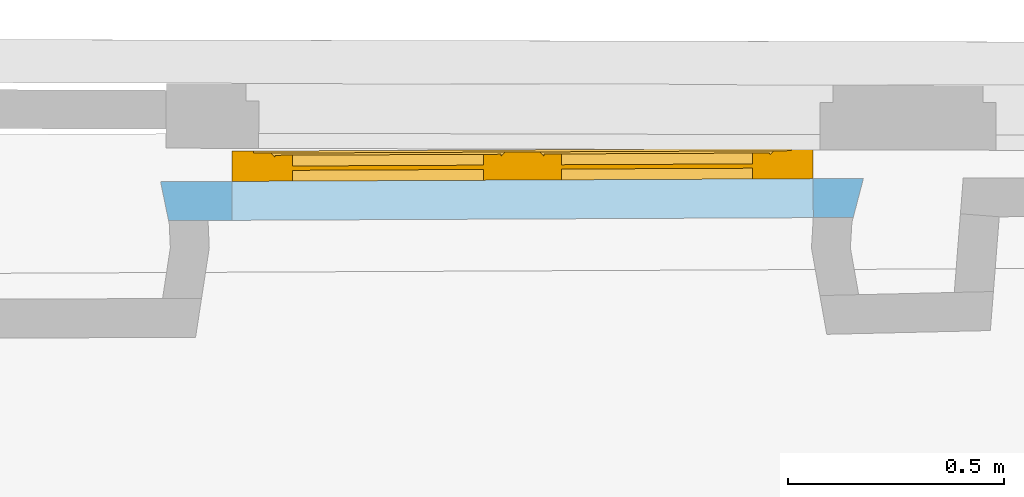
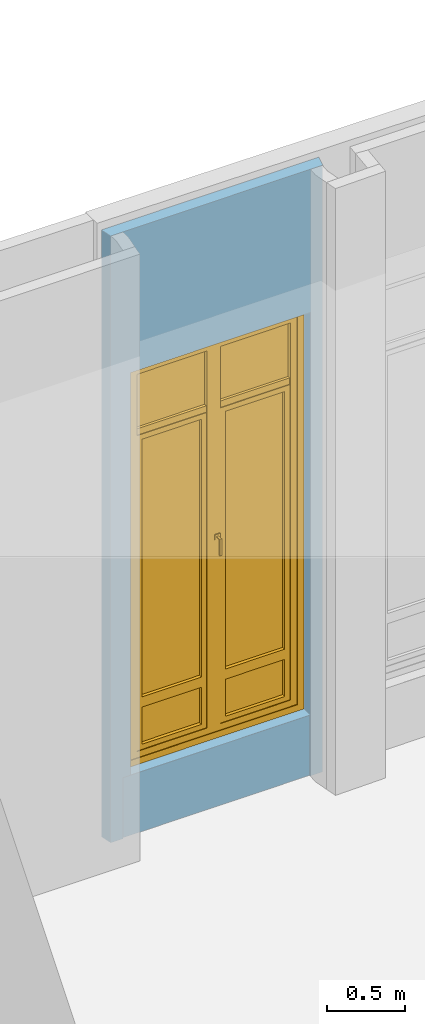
# One storey, part 70 of 97: 1 window, 2 openings, plus 1 element that does not belong to this part.
"""IFC2X3 building model written with IfcOpenShell, lengths in centimetres."""

from ifc_helpers import new_model, entity, si_unit, converted_unit, direction, frame, origin, origin_with_axes, place, context, subcontext, project, spatial, polyline, outline, extrude, faceted_brep, shape, source, transform, mapped, material, material_list, layer, layer_set, layer_usage, type_object, element, fill, save


model = new_model("IFC2X3")

# Units and contexts
model_context = context("Model", 3, precision=0.0001, world=origin(), true_north=direction((0.225632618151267, 0.974212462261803, 0.0)))
body_context = subcontext(model_context, "Body", "Model", "MODEL_VIEW")
footprint_context = subcontext(model_context, "FootPrint", "Model", "MODEL_VIEW")
profile_context = subcontext(model_context, "Profile", "Model", "MODEL_VIEW")
ifc_project = project(units=[si_unit("LENGTHUNIT", "METRE", prefix="CENTI"), si_unit("AREAUNIT", "SQUARE_METRE", prefix="CENTI"), si_unit("VOLUMEUNIT", "CUBIC_METRE", prefix="CENTI"), converted_unit("PLANEANGLEUNIT", "DEGREE", entity("IfcRatioMeasure", 0.0174532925), si_unit("PLANEANGLEUNIT", "RADIAN"), dimensions=[0, 0, 0, 0, 0, 0, 0])], contexts=[model_context])

# Site, building, storey
site_placement = place(None, origin_with_axes())
site = spatial("IfcSite", under=ifc_project, at=site_placement, Name="Default Site", CompositionType="ELEMENT")
building_placement = place(site_placement, origin_with_axes())
building = spatial("IfcBuilding", under=site, at=building_placement, Name="Default Building", CompositionType="ELEMENT")
storey_placement = place(building_placement, origin_with_axes())
storey = spatial("IfcBuildingStorey", under=building, at=storey_placement, Name="Rez-de-chaussée", CompositionType="ELEMENT", Elevation=0.0)

# Wall, openings, window
ifc_material_1 = material(Name="<aucun>")
ifc_layer = layer(ifc_material_1, 9.0)
ifc_layer_set = layer_set([ifc_layer], Name="default")
ifc_layer_usage = layer_usage(ifc_layer_set, "AXIS2", "POSITIVE", -4.5)
wall_type = type_object("IfcWallType", Name="default 90", PredefinedType="NOTDEFINED", material=ifc_layer_set)
wall_placement = place(storey_placement, frame((532.490372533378, 732.679871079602, 0.0128503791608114), z_axis=(0.0, 0.0, 1.0), x_axis=(0.999989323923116, 0.00462082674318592, 0.0)))
wall = element("IfcWallStandardCase", 1, at=wall_placement, inside=storey, type_object=wall_type, material=ifc_layer_usage, Name="Enveloppe 671504", context=body_context, shape_type="SweptSolid", body=[
    extrude(outline(polyline([(-8.07319008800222, 4.49999999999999), (-6.26623625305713, -4.49999999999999), (152.067058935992, -4.50000000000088), (154.474498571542, 4.49999999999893), (-8.07319008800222, 4.49999999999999)])), origin_with_axes(), (0.0, 0.0, 1.0), 477.795358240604),
])
opening_1_placement = place(wall_placement, frame((2.8564647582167, 0.0, -1.27677382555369e-13), z_axis=(0.0, 0.0, 1.0), x_axis=(-1.0, 6.84001466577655e-15, 0.0)))
cartesian_point_1 = entity("IfcCartesianPoint", [-8.88178419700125e-14, -8.88178419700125e-14, 48.0])
cartesian_point_2 = entity("IfcCartesianPoint", [-139.98012698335, -4.50000000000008])
element("IfcOpeningElement", 2, at=opening_1_placement, cuts=wall, Name="Baie 23852", ObjectType="Recess", shapes=[
    shape(body_context, "Body", "Brep", [faceted_brep([(2.16979396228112e-05, 24.4999819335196, -4.62480059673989e-10), (-139.980119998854, 24.4999819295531, -4.62480059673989e-10), (-139.980119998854, 24.4999819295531, 47.9999993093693), (2.16979396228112e-05, 24.4999819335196, 47.9999993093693), (2.16985346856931e-05, 3.49999234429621, 47.9999993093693), (2.16985346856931e-05, 3.49999234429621, -4.62480059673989e-10), (2.07461233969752e-05, 3.49999234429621, -4.62480059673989e-10), (-139.98012095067, 3.49998672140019, -4.62480059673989e-10), (-139.980119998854, 24.4999763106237, -4.62480059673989e-10), (-139.980119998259, 3.49998672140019, -4.62480059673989e-10), (-139.980119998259, 3.49998672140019, 47.9999993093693), (-139.980119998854, 24.4999763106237, 47.9999993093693), (-139.98012095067, 3.49998672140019, 47.9999993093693), (2.07461233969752e-05, 3.49999234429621, 47.9999993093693), (2.07461233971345e-05, 3.49998672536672, -4.62480059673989e-10), (2.07461233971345e-05, 3.49998672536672, 47.9999993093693)], [[[0, 1, 2, 3]], [[3, 4, 5, 0]], [[0, 6, 7, 8]], [[8, 9, 10, 11]], [[11, 12, 13, 3]], [[12, 7, 14, 15]]])]),
    shape(profile_context, "Profile", "GeometricCurveSet", [entity("IfcGeometricCurveSet", [entity("IfcPolyline", [cartesian_point_1, entity("IfcCartesianPoint", [-8.88178419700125e-14, -8.88178419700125e-14, 0.0]), entity("IfcCartesianPoint", [-139.98012698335, -8.88178419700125e-14, 0.0]), entity("IfcCartesianPoint", [-139.98012698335, -8.88178419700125e-14, 48.0]), cartesian_point_1])])]),
    shape(footprint_context, "FootPrint", "GeometricCurveSet", [entity("IfcGeometricCurveSet", [entity("IfcPolyline", [cartesian_point_2, entity("IfcCartesianPoint", [-8.88178419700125e-14, -4.50000000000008]), entity("IfcCartesianPoint", [-8.88178419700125e-14, 4.49999999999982]), entity("IfcCartesianPoint", [-139.98012698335, 4.49999999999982]), cartesian_point_2])])]),
])
opening_2_placement = place(wall_placement, frame((8.44156843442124, 1.13686837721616e-13, 48.1016933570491), z_axis=(0.0, 0.0, 1.0), x_axis=(-1.0, 6.84001466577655e-15, 0.0)))
cartesian_point_3 = entity("IfcCartesianPoint", [-8.88178419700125e-14, 0.0, 317.0])
cartesian_point_4 = entity("IfcCartesianPoint", [-134.395023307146, -4.49999999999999])
opening_2 = element("IfcOpeningElement", 3, at=opening_2_placement, cuts=wall, Name="4294966449_11", ObjectType="Opening", shapes=[
    shape(body_context, "Body", "SweptSolid", [extrude(outline(polyline([(0.0, 317.0), (0.0, 0.0), (134.395023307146, 0.0), (134.395023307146, 317.0), (0.0, 317.0)])), frame((0.0, -14.5, 0.0), z_axis=(0.0, 1.0, 0.0), x_axis=(-1.0, 0.0, 0.0)), (0.0, 0.0, 1.0), 29.0)]),
    shape(profile_context, "Profile", "GeometricCurveSet", [entity("IfcGeometricCurveSet", [entity("IfcPolyline", [cartesian_point_3, entity("IfcCartesianPoint", [-8.88178419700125e-14, 0.0, 0.0]), entity("IfcCartesianPoint", [-134.395023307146, 0.0, 0.0]), entity("IfcCartesianPoint", [-134.395023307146, 0.0, 317.0]), cartesian_point_3])])]),
    shape(footprint_context, "FootPrint", "GeometricCurveSet", [entity("IfcGeometricCurveSet", [entity("IfcPolyline", [cartesian_point_4, entity("IfcCartesianPoint", [0.0, -4.4999999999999]), entity("IfcCartesianPoint", [-8.88178419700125e-14, 4.49999999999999]), entity("IfcCartesianPoint", [-134.395023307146, 4.4999999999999]), cartesian_point_4])])]),
])
ifc_material_2 = material(Name="Transparent")
ifc_material_3 = material(Name="Blanc trafic")
ifc_material_4 = material(Name="Aluminium satiné")
ifc_material_5 = material(Name="Blanc trafic")
ifc_material_list = material_list([ifc_material_2, ifc_material_3, ifc_material_4, ifc_material_5])
window_style = type_object("IfcWindowStyle", Name="FN[R] 2VB[2V] MM", ConstructionType="NOTDEFINED", OperationType="NOTDEFINED", ParameterTakesPrecedence=False, Sizeable=False, material=ifc_material_list)
shared_shape = source(origin_with_axes(), body_context, "Body", "Brep", [
    faceted_brep([(-62.1975123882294, 311.999988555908, -3.99999991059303), (-62.1975123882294, 311.999988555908, 3.99999991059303), (-62.1975123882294, 5.00000007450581, 3.99999991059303), (-62.1975123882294, 5.00000007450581, -3.99999991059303), (-67.1975135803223, 317.000007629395, 3.99999991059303), (-67.1975135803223, 1.11022302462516e-14, 3.99999991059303), (-67.1975135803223, 317.000007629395, -3.99999991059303), (-67.1975135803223, 1.11022302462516e-14, -3.99999991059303), (62.1975123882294, 5.00000007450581, 3.99999991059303), (62.1975123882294, 5.00000007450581, -3.99999991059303), (67.1975135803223, 1.11022302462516e-14, 3.99999991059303), (67.1975135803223, 1.11022302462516e-14, -3.99999991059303), (62.1975123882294, 311.999988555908, 3.99999991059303), (62.1975123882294, 311.999988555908, -3.99999991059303), (67.1975135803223, 317.000007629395, 3.99999991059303), (67.1975135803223, 317.000007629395, -3.99999991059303)], [[[0, 1, 2, 3]], [[1, 4, 5, 2]], [[4, 6, 7, 5]], [[6, 0, 3, 7]], [[3, 2, 8, 9]], [[2, 5, 10, 8]], [[5, 7, 11, 10]], [[7, 3, 9, 11]], [[9, 8, 12, 13]], [[8, 10, 14, 12]], [[10, 11, 15, 14]], [[11, 9, 13, 15]], [[13, 12, 1, 0]], [[12, 14, 4, 1]], [[14, 15, 6, 4]], [[15, 13, 0, 6]]]),
    faceted_brep([(-58.1975102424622, 307.999992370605, -3.50000001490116), (-57.1975107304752, 306.99999332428, -2.50000050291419), (-57.1975107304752, 10.0000001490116, -2.50000050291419), (-58.1975102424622, 9.00000035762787, -3.50000001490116), (-57.1975111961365, 306.99999332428, -2.5000000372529), (-57.1975111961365, 306.99999332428, 3.50000001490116), (-57.1975111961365, 10.0000001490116, 3.50000001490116), (-57.1975111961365, 10.0000001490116, -2.5000000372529), (-62.1975123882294, 311.999988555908, 3.50000001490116), (-62.1975123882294, 5.00000007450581, 3.50000001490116), (-62.1975123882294, 311.999988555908, -3.50000001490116), (-62.1975123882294, 5.00000007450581, -3.50000001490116), (-57.1975111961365, 10.0000002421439, -2.50000013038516), (-5.00000007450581, 10.0000002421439, -2.50000013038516), (-3.99999991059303, 9.00000035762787, -3.50000001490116), (-5.00000007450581, 10.0000001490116, 3.50000001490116), (-5.00000007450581, 10.0000001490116, -2.5000000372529), (1.22124532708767e-13, 5.00000007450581, 3.50000001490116), (1.22124532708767e-13, 5.00000007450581, -3.50000001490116), (-4.99999998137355, 10.0000001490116, -2.49999994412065), (-4.99999998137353, 306.99999332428, -2.49999994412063), (-3.99999991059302, 307.999992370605, -3.50000001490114), (-5.00000007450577, 306.99999332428, 3.50000001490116), (-5.00000007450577, 306.99999332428, -2.5000000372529), (1.4432899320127e-13, 311.999988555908, 3.50000001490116), (-5.00000007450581, 306.99999332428, 3.50000001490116), (1.44328991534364e-13, 311.999988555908, -3.50000001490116), (1.44328991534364e-13, 311.999988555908, 3.50000001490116), (-3.99999991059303, 307.999992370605, -3.50000001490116), (1.4432899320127e-13, 311.999988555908, -3.50000001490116), (-5.00000007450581, 306.999992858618, -2.5000005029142), (-57.1975111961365, 306.999992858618, -2.5000005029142), (-5.00000007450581, 306.99999332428, -2.5000000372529)], [[[0, 1, 2, 3]], [[4, 5, 6, 7]], [[5, 8, 9, 6]], [[8, 10, 11, 9]], [[10, 0, 3, 11]], [[3, 12, 13, 14]], [[7, 6, 15, 16]], [[6, 9, 17, 15]], [[9, 11, 18, 17]], [[11, 3, 14, 18]], [[14, 19, 20, 21]], [[16, 15, 22, 23]], [[15, 17, 24, 25]], [[17, 18, 26, 27]], [[18, 14, 28, 29]], [[28, 30, 31, 0]], [[32, 25, 5, 4]], [[25, 24, 8, 5]], [[24, 29, 10, 8]], [[29, 28, 0, 10]]]),
    faceted_brep([(-5.00000007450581, 306.99999332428, -0.499999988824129), (-5.00000007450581, 263.199996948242, -0.499999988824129), (-57.1975111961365, 263.199996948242, -0.499999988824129), (-57.1975111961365, 306.99999332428, -0.499999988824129), (-57.1975111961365, 306.99999332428, 0.499999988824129), (-57.1975111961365, 263.199996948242, 0.499999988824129), (-5.00000007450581, 263.199996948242, 0.499999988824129), (-5.00000007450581, 306.99999332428, 0.499999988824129)], [[[0, 1, 2, 3]], [[4, 5, 6, 7]], [[3, 2, 5, 4]], [[2, 1, 6, 5]], [[1, 0, 7, 6]], [[0, 3, 4, 7]]]),
    faceted_brep([(-5.00000007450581, 258.200001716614, 2.5000000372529), (-5.00000007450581, 258.200001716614, -2.5000000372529), (-5.00000007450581, 263.199996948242, -2.5000000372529), (-5.00000007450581, 263.199996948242, 2.5000000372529), (-57.1975111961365, 263.199996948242, 2.5000000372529), (-57.1975111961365, 263.199996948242, -2.5000000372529), (-57.1975111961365, 258.200001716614, -2.5000000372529), (-57.1975111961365, 258.200001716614, 2.5000000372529)], [[[0, 1, 2, 3]], [[4, 5, 6, 7]], [[3, 2, 5, 4]], [[2, 1, 6, 5]], [[1, 0, 7, 6]], [[0, 3, 4, 7]]]),
    faceted_brep([(-53.1975090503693, 254.200005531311, -2.99999993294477), (-53.1975090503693, 254.200005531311, 2.99999993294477), (-53.1975090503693, 51.230001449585, 2.99999993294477), (-53.1975090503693, 51.230001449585, -2.99999993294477), (-57.1975111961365, 258.200001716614, 2.99999993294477), (-57.1975111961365, 47.2299993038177, 2.99999993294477), (-57.1975111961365, 258.200001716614, -2.99999993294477), (-57.1975111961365, 47.2299993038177, -2.99999993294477), (-9.00000035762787, 51.230001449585, 2.99999993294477), (-9.00000035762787, 51.230001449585, -2.99999993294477), (-5.00000007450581, 47.2299993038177, 2.99999993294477), (-5.00000007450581, 47.2299993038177, -2.99999993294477), (-9.00000035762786, 254.200005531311, 2.99999993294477), (-9.00000035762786, 254.200005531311, -2.99999993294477), (-5.00000007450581, 258.200001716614, 2.99999993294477), (-9.00000035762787, 254.200005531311, 2.99999993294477), (-5.00000007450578, 258.200001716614, -2.99999993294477), (-5.00000007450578, 258.200001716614, 2.99999993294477), (-9.00000035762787, 254.200005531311, -2.99999993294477), (-5.00000007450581, 258.200001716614, -2.99999993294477)], [[[0, 1, 2, 3]], [[1, 4, 5, 2]], [[4, 6, 7, 5]], [[6, 0, 3, 7]], [[3, 2, 8, 9]], [[2, 5, 10, 8]], [[5, 7, 11, 10]], [[7, 3, 9, 11]], [[9, 8, 12, 13]], [[8, 10, 14, 15]], [[10, 11, 16, 17]], [[11, 9, 18, 19]], [[18, 15, 1, 0]], [[15, 14, 4, 1]], [[14, 19, 6, 4]], [[19, 18, 0, 6]]]),
    faceted_brep([(-9.00000035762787, 254.200005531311, -0.499999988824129), (-9.00000035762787, 51.230001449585, -0.499999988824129), (-53.1975090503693, 51.230001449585, -0.499999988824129), (-53.1975090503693, 254.200005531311, -0.499999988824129), (-53.1975090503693, 254.200005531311, 0.499999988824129), (-53.1975090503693, 51.230001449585, 0.499999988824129), (-9.00000035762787, 51.230001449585, 0.499999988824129), (-9.00000035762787, 254.200005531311, 0.499999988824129), (-9.00000035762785, 254.200005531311, -0.499999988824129), (-9.00000035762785, 254.200005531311, 0.499999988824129)], [[[0, 1, 2, 3]], [[4, 5, 6, 7]], [[3, 2, 5, 4]], [[2, 1, 6, 5]], [[1, 8, 9, 6]], [[0, 3, 4, 7]]]),
    faceted_brep([(-53.1975090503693, 43.2300001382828, -2.99999993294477), (-53.1975090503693, 43.2300001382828, 2.99999993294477), (-53.1975090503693, 14.0000000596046, 2.99999993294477), (-53.1975090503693, 14.0000000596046, -2.99999993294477), (-57.1975111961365, 47.2299993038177, 2.99999993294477), (-57.1975111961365, 10.0000001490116, 2.99999993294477), (-57.1975111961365, 47.2299993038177, -2.99999993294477), (-57.1975111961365, 10.0000001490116, -2.99999993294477), (-9.00000035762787, 14.0000000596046, 2.99999993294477), (-9.00000035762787, 14.0000000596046, -2.99999993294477), (-5.00000007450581, 10.0000001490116, 2.99999993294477), (-5.00000007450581, 10.0000001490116, -2.99999993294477), (-9.00000035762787, 43.2300001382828, 2.99999993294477), (-9.00000035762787, 43.2300001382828, -2.99999993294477), (-5.00000007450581, 47.2299993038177, 2.99999993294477), (-5.00000007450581, 47.2299993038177, -2.99999993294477)], [[[0, 1, 2, 3]], [[1, 4, 5, 2]], [[4, 6, 7, 5]], [[6, 0, 3, 7]], [[3, 2, 8, 9]], [[2, 5, 10, 8]], [[5, 7, 11, 10]], [[7, 3, 9, 11]], [[9, 8, 12, 13]], [[8, 10, 14, 12]], [[10, 11, 15, 14]], [[11, 9, 13, 15]], [[13, 12, 1, 0]], [[12, 14, 4, 1]], [[14, 15, 6, 4]], [[15, 13, 0, 6]]]),
    faceted_brep([(-9.00000035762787, 43.2300001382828, -0.499999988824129), (-9.00000035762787, 14.0000000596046, -0.499999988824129), (-53.1975090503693, 14.0000000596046, -0.499999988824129), (-53.1975090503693, 43.2300001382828, -0.499999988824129), (-53.1975090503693, 43.2300001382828, 0.499999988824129), (-53.1975090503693, 14.0000000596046, 0.499999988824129), (-9.00000035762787, 14.0000000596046, 0.499999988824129), (-9.00000035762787, 43.2300001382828, 0.499999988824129)], [[[0, 1, 2, 3]], [[4, 5, 6, 7]], [[3, 2, 5, 4]], [[2, 1, 6, 5]], [[1, 0, 7, 6]], [[0, 3, 4, 7]]]),
    faceted_brep([(3.99999991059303, 307.999992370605, -3.50000001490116), (4.99999998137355, 306.99999332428, -2.49999994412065), (4.99999998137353, 10.0000001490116, -2.49999994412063), (3.99999991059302, 9.00000035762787, -3.50000001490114), (5.00000007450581, 306.99999332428, -2.5000000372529), (5.00000007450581, 306.99999332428, 3.50000001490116), (5.00000007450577, 10.0000001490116, 3.50000001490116), (5.00000007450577, 10.0000001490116, -2.5000000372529), (1.4432899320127e-13, 311.999988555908, 3.50000001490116), (1.22124532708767e-13, 5.00000007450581, 3.50000001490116), (5.00000007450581, 10.0000001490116, 3.50000001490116), (1.4432899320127e-13, 311.999988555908, -3.50000001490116), (1.22124534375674e-13, 5.00000007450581, -3.50000001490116), (1.22124534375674e-13, 5.00000007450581, 3.50000001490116), (3.99999991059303, 9.00000035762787, -3.50000001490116), (1.22124532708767e-13, 5.00000007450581, -3.50000001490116), (5.00000007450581, 10.0000002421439, -2.50000013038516), (57.1975111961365, 10.0000002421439, -2.50000013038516), (58.1975102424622, 9.00000035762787, -3.50000001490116), (5.00000007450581, 10.0000001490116, -2.5000000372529), (57.1975111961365, 10.0000001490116, 3.50000001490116), (57.1975111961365, 10.0000001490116, -2.5000000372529), (62.1975123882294, 5.00000007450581, 3.50000001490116), (62.1975123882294, 5.00000007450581, -3.50000001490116), (57.1975107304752, 10.0000001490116, -2.50000050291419), (57.1975107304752, 306.99999332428, -2.50000050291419), (58.1975102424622, 307.999992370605, -3.50000001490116), (57.1975111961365, 306.99999332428, 3.50000001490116), (57.1975111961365, 306.99999332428, -2.5000000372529), (62.1975123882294, 311.999988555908, 3.50000001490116), (62.1975123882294, 311.999988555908, -3.50000001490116), (57.1975111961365, 306.999992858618, -2.5000005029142), (5.00000007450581, 306.999992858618, -2.50000050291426), (3.99999991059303, 307.999992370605, -3.50000001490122)], [[[0, 1, 2, 3]], [[4, 5, 6, 7]], [[5, 8, 9, 10]], [[8, 11, 12, 13]], [[11, 0, 14, 15]], [[14, 16, 17, 18]], [[19, 10, 20, 21]], [[10, 9, 22, 20]], [[9, 15, 23, 22]], [[15, 14, 18, 23]], [[18, 24, 25, 26]], [[21, 20, 27, 28]], [[20, 22, 29, 27]], [[22, 23, 30, 29]], [[23, 18, 26, 30]], [[26, 31, 32, 33]], [[28, 27, 5, 4]], [[27, 29, 8, 5]], [[29, 30, 11, 8]], [[30, 26, 0, 11]]]),
    faceted_brep([(4.50000017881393, 160.500001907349, 3.50000001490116), (4.50000017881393, 156.500005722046, 3.50000001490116), (0.499999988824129, 156.500005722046, 3.50000001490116), (0.499999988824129, 160.500001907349, 3.50000001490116), (0.499999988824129, 160.500001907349, 4.30000014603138), (0.499999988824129, 156.500005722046, 4.30000014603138), (4.50000017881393, 156.500005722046, 4.30000014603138), (4.50000017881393, 160.500001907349, 4.30000014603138)], [[[0, 1, 2, 3]], [[4, 5, 6, 7]], [[3, 2, 5, 4]], [[2, 1, 6, 5]], [[1, 0, 7, 6]], [[0, 3, 4, 7]]]),
    faceted_brep([(3.24999988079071, 159.00000333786, 4.30000014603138), (3.24999988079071, 158.000004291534, 4.30000014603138), (1.75000000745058, 158.000004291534, 4.30000014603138), (1.75000000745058, 159.00000333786, 4.30000014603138), (1.75000000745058, 159.00000333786, 8.29999968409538), (1.75000000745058, 158.000003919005, 7.30000026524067), (3.24999988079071, 158.000003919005, 7.30000026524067), (3.24999988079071, 159.00000333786, 8.29999968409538), (1.75000000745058, 158.000004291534, 7.29999989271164), (3.24999988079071, 158.000004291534, 7.29999989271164)], [[[0, 1, 2, 3]], [[4, 5, 6, 7]], [[3, 2, 8, 4]], [[2, 1, 9, 8]], [[1, 0, 7, 9]], [[0, 3, 4, 7]]]),
    faceted_brep([(3.24999988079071, 159.00000333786, 8.29999968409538), (3.24999988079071, 158.000003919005, 7.30000026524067), (1.75000000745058, 158.000003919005, 7.30000026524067), (1.75000000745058, 159.00000333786, 8.29999968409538), (1.75000000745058, 146.000003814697, 8.29999968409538), (1.75000000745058, 146.000003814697, 7.29999989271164), (3.24999988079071, 146.000003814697, 7.29999989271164), (3.24999988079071, 146.000003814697, 8.29999968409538), (1.75000000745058, 158.000004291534, 7.29999989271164), (3.24999988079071, 158.000004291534, 7.29999989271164)], [[[0, 1, 2, 3]], [[4, 5, 6, 7]], [[3, 8, 5, 4]], [[8, 9, 6, 5]], [[9, 0, 7, 6]], [[0, 3, 4, 7]]]),
    faceted_brep([(57.1975111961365, 306.99999332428, -0.499999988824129), (57.1975111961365, 263.199996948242, -0.499999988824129), (5.00000007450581, 263.199996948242, -0.499999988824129), (5.00000007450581, 306.99999332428, -0.499999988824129), (5.00000007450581, 306.99999332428, 0.499999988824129), (5.00000007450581, 263.199996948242, 0.499999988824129), (57.1975111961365, 263.199996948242, 0.499999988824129), (57.1975111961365, 306.99999332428, 0.499999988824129), (5.0000000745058, 263.199996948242, -0.499999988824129), (5.0000000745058, 263.199996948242, 0.499999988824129)], [[[0, 1, 2, 3]], [[4, 5, 6, 7]], [[3, 8, 9, 4]], [[2, 1, 6, 5]], [[1, 0, 7, 6]], [[0, 3, 4, 7]]]),
    faceted_brep([(57.1975111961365, 258.200001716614, 2.5000000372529), (57.1975111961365, 258.200001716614, -2.5000000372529), (57.1975111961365, 263.199996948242, -2.5000000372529), (57.1975111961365, 263.199996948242, 2.5000000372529), (5.00000007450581, 263.199996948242, 2.5000000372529), (5.00000007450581, 263.199996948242, -2.5000000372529), (5.00000007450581, 258.200001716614, -2.5000000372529), (5.00000007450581, 258.200001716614, 2.5000000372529)], [[[0, 1, 2, 3]], [[4, 5, 6, 7]], [[3, 2, 5, 4]], [[2, 1, 6, 5]], [[1, 0, 7, 6]], [[0, 3, 4, 7]]]),
    faceted_brep([(9.00000035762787, 254.200005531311, -2.99999993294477), (9.00000035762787, 254.200005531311, 2.99999993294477), (9.00000035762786, 51.230001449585, 2.99999993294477), (9.00000035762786, 51.230001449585, -2.99999993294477), (5.00000007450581, 258.200001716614, 2.99999993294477), (5.00000007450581, 47.2299993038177, 2.99999993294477), (9.00000035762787, 51.230001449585, 2.99999993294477), (5.00000007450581, 258.200001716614, -2.99999993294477), (5.0000000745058, 47.2299993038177, -2.99999993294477), (5.0000000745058, 47.2299993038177, 2.99999993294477), (9.00000035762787, 51.230001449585, -2.99999993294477), (5.00000007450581, 47.2299993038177, -2.99999993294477), (53.1975090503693, 51.230001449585, 2.99999993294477), (53.1975090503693, 51.230001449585, -2.99999993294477), (57.1975111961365, 47.2299993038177, 2.99999993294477), (57.1975111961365, 47.2299993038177, -2.99999993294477), (53.1975090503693, 254.200005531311, 2.99999993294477), (53.1975090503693, 254.200005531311, -2.99999993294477), (57.1975111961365, 258.200001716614, 2.99999993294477), (57.1975111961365, 258.200001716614, -2.99999993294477)], [[[0, 1, 2, 3]], [[1, 4, 5, 6]], [[4, 7, 8, 9]], [[7, 0, 10, 11]], [[10, 6, 12, 13]], [[6, 5, 14, 12]], [[5, 11, 15, 14]], [[11, 10, 13, 15]], [[13, 12, 16, 17]], [[12, 14, 18, 16]], [[14, 15, 19, 18]], [[15, 13, 17, 19]], [[17, 16, 1, 0]], [[16, 18, 4, 1]], [[18, 19, 7, 4]], [[19, 17, 0, 7]]]),
    faceted_brep([(53.1975090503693, 254.200005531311, -0.499999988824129), (53.1975090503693, 51.230001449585, -0.499999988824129), (9.00000035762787, 51.230001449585, -0.499999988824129), (9.00000035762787, 254.200005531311, -0.499999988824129), (9.00000035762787, 254.200005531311, 0.499999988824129), (9.00000035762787, 51.230001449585, 0.499999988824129), (53.1975090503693, 51.230001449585, 0.499999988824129), (53.1975090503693, 254.200005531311, 0.499999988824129), (9.00000035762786, 51.230001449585, -0.499999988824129), (9.00000035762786, 51.230001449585, 0.499999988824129)], [[[0, 1, 2, 3]], [[4, 5, 6, 7]], [[3, 8, 9, 4]], [[2, 1, 6, 5]], [[1, 0, 7, 6]], [[0, 3, 4, 7]]]),
    faceted_brep([(9.00000035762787, 43.2300001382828, -2.99999993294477), (9.00000035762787, 43.2300001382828, 2.99999993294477), (9.00000035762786, 14.0000000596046, 2.99999993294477), (9.00000035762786, 14.0000000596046, -2.99999993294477), (5.00000007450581, 47.2299993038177, 2.99999993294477), (5.00000007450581, 10.0000001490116, 2.99999993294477), (9.00000035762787, 14.0000000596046, 2.99999993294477), (5.00000007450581, 47.2299993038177, -2.99999993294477), (5.00000007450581, 10.0000001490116, -2.99999993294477), (9.00000035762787, 14.0000000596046, -2.99999993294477), (53.1975090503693, 14.0000000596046, 2.99999993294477), (53.1975090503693, 14.0000000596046, -2.99999993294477), (57.1975111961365, 10.0000001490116, 2.99999993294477), (57.1975111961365, 10.0000001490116, -2.99999993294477), (53.1975090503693, 43.2300001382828, 2.99999993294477), (53.1975090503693, 43.2300001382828, -2.99999993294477), (57.1975111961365, 47.2299993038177, 2.99999993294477), (57.1975111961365, 47.2299993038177, -2.99999993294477)], [[[0, 1, 2, 3]], [[1, 4, 5, 6]], [[4, 7, 8, 5]], [[7, 0, 9, 8]], [[9, 6, 10, 11]], [[6, 5, 12, 10]], [[5, 8, 13, 12]], [[8, 9, 11, 13]], [[11, 10, 14, 15]], [[10, 12, 16, 14]], [[12, 13, 17, 16]], [[13, 11, 15, 17]], [[15, 14, 1, 0]], [[14, 16, 4, 1]], [[16, 17, 7, 4]], [[17, 15, 0, 7]]]),
    faceted_brep([(53.1975090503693, 43.2300001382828, -0.499999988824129), (53.1975090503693, 14.0000000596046, -0.499999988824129), (9.00000035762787, 14.0000000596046, -0.499999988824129), (9.00000035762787, 43.2300001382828, -0.499999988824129), (9.00000035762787, 43.2300001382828, 0.499999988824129), (9.00000035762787, 14.0000000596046, 0.499999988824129), (53.1975090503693, 14.0000000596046, 0.499999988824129), (53.1975090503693, 43.2300001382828, 0.499999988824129), (9.00000035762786, 14.0000000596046, -0.499999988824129), (9.00000035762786, 14.0000000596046, 0.499999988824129)], [[[0, 1, 2, 3]], [[4, 5, 6, 7]], [[3, 8, 9, 4]], [[2, 1, 6, 5]], [[1, 0, 7, 6]], [[0, 3, 4, 7]]]),
])
window_placement = place(opening_2_placement, frame((-134.395023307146, -11.4999999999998, 7.105427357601e-15), z_axis=(0.0, 0.0, 1.0), x_axis=(1.0, 0.0, 0.0)))
window = element("IfcWindow", 4, at=window_placement, inside=storey, type_object=window_style, material=ifc_material_list, Name="Fenêtre 23844", OverallHeight=317.0, OverallWidth=134.395023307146, context=body_context, shape_type="MappedRepresentation", body=[
    mapped(shared_shape, transform((67.1975116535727, 4.0, 0.0), x_axis=(-1.0, 8.67361737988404e-19, 0.0), y_axis=(0.0, 0.0, 1.0), z_axis=(8.67361737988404e-19, 1.0, 0.0), scale=1.0, scale2=1.0, scale3=1.0, uniform=False)),
])
fill(opening_2, window)

save(model, "model.ifc")
